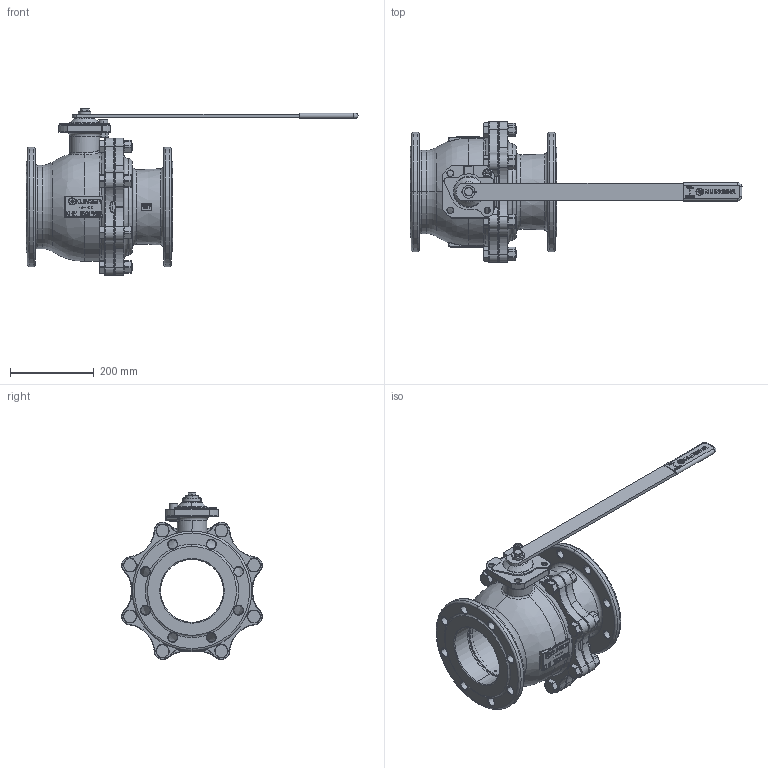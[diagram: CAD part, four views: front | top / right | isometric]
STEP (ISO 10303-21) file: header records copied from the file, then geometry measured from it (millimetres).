
FILE_DESCRIPTION((''),'2;1');
FILE_NAME('KHEFK150VFK150P016PHH','2015-08-10T',('mahrhauserh'),('RAND'),'PRO/ENGINEER BY PARAMETRIC TECHNOLOGY CORPORATION, 2013410','PRO/ENGINEER BY PARAMETRIC TECHNOLOGY CORPORATION, 2013410','');
FILE_SCHEMA(('CONFIG_CONTROL_DESIGN'));
Products named in the file (1): KHEFK150VFK150P016PHH
Bounding box: 791.95 x 335.61 x 398.5 mm (x, y, z)
Volume: 8005903.5 mm3; surface area: 1487456 mm2
Topology: 5 solids, 6 shells, 3388 faces, 8877 edges, 5650 vertices
Faces by surface type: plane 2093, cylinder 475, torus 358, cone 286, bspline 150, sphere 26
Entity records: 127270 total; most frequent: CARTESIAN_POINT 43951, ORIENTED_EDGE 17742, DIRECTION 16842, EDGE_CURVE 8871, VECTOR 5948, LINE 5948, VERTEX_POINT 5650, AXIS2_PLACEMENT_3D 5447
